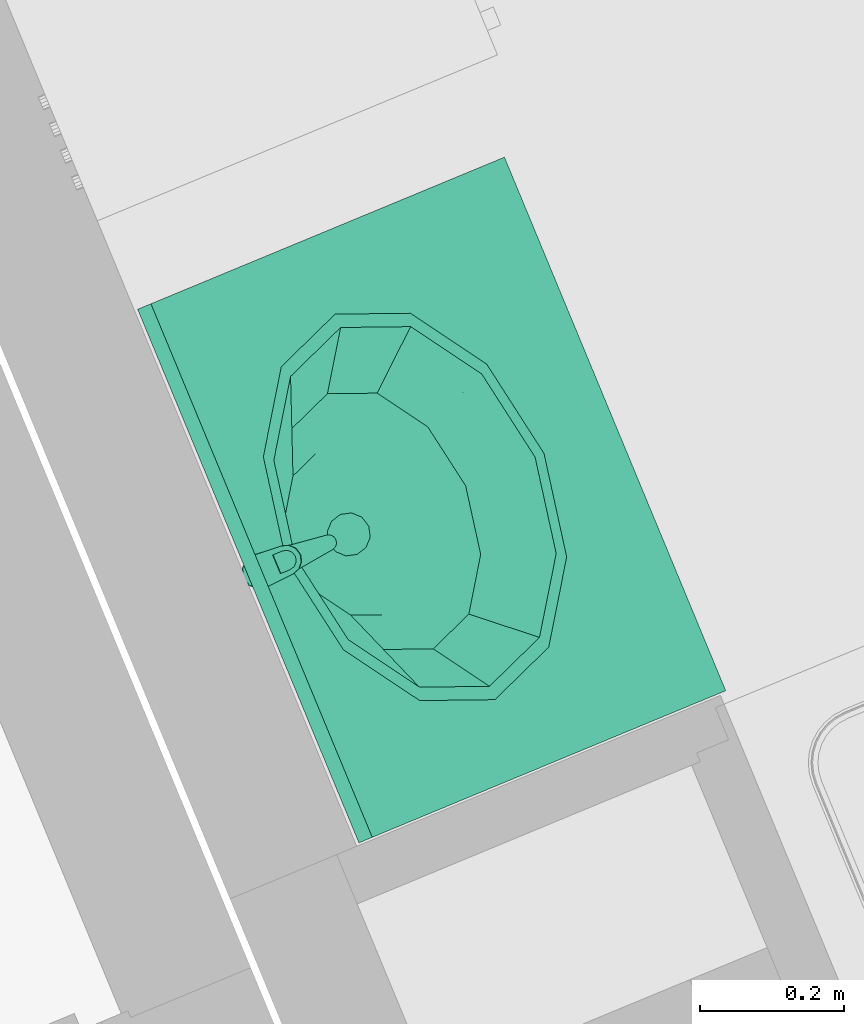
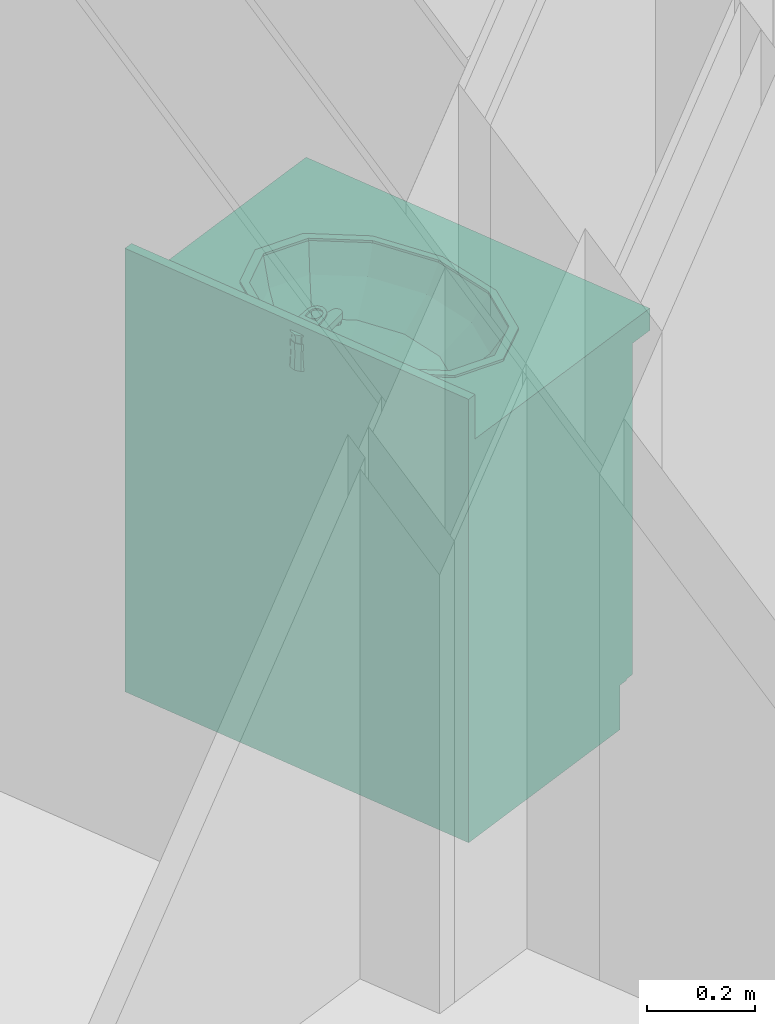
# One storey, part 71 of 90: 1 flow terminal.
"""IFC2X3 building model written with IfcOpenShell, lengths in metres."""

from ifc_helpers import new_model, entity, si_unit, converted_unit, derived_unit, money_unit, direction, frame, origin_with_axes, place, context, subcontext, project, spatial, open_shell, faceted_brep, surface_model, source, transform, mapped, type_object, element, save


model = new_model("IFC2X3")

# Units and contexts
model_context = context("Model", 3, precision=1e-05, world=origin_with_axes(), true_north=direction((0.0, 1.0)))
body_context = subcontext(model_context, "Body", "Model", "MODEL_VIEW")
ifc_project = project(units=[si_unit("LENGTHUNIT", "METRE"), si_unit("AREAUNIT", "SQUARE_METRE"), si_unit("VOLUMEUNIT", "CUBIC_METRE"), converted_unit("PLANEANGLEUNIT", "DEGREE", entity("IfcPlaneAngleMeasure", 0.0174532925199), si_unit("PLANEANGLEUNIT", "RADIAN"), dimensions=[0, 0, 0, 0, 0, 0, 0]), si_unit("SOLIDANGLEUNIT", "STERADIAN"), money_unit("EUR"), converted_unit("TIMEUNIT", "Year", entity("IfcTimeMeasure", 31556926.0), si_unit("TIMEUNIT", "SECOND"), dimensions=[0, 0, 1, 0, 0, 0, 0]), si_unit("MASSUNIT", "GRAM", prefix="KILO"), si_unit("THERMODYNAMICTEMPERATUREUNIT", "DEGREE_CELSIUS"), si_unit("LUMINOUSINTENSITYUNIT", "LUMEN"), si_unit("ENERGYUNIT", "JOULE", prefix="MEGA"), derived_unit("THERMALCONDUCTANCEUNIT", [(si_unit("POWERUNIT", "WATT"), 1), (si_unit("LENGTHUNIT", "METRE"), -1), (si_unit("THERMODYNAMICTEMPERATUREUNIT", "KELVIN"), -1)]), derived_unit("SPECIFICHEATCAPACITYUNIT", [(si_unit("ENERGYUNIT", "JOULE"), 1), (si_unit("MASSUNIT", "GRAM", prefix="KILO"), -1), (si_unit("THERMODYNAMICTEMPERATUREUNIT", "KELVIN"), -1)]), derived_unit("MASSDENSITYUNIT", [(si_unit("MASSUNIT", "GRAM", prefix="KILO"), 1), (si_unit("VOLUMEUNIT", "CUBIC_METRE"), -1)])], contexts=[model_context])

# Site, building, storey
site_placement = place(None, origin_with_axes())
site = spatial("IfcSite", under=ifc_project, at=site_placement, Name="Site", CompositionType="ELEMENT")
building_placement = place(site_placement, origin_with_axes())
building = spatial("IfcBuilding", under=site, at=building_placement, Name="Bâtiment", CompositionType="ELEMENT")
storey_placement = place(building_placement, frame((0.0, 0.0, 2.72), z_axis=(0.0, 0.0, 1.0), x_axis=(1.0, 0.0, 0.0)))
storey = spatial("IfcBuildingStorey", under=building, at=storey_placement, Name="R+1", CompositionType="ELEMENT", Elevation=2.72)

# Flow terminal
sanitary_terminal_type = type_object("IfcSanitaryTerminalType", Name="Lavabo sur meuble 23", PredefinedType="NOTDEFINED")
shared_shape = source(origin_with_axes(), body_context, "Body", "SurfaceModel", [
    faceted_brep([(0.0, 0.09, 0.0), (0.8, 0.09, 0.0), (0.8, 0.09, 0.1), (0.0, 0.09, 0.1), (0.0, 0.55, 0.0), (0.8, 0.55, 0.0), (0.8, 0.55, 0.1), (0.0, 0.55, 0.1)], [[[0, 1, 2, 3]], [[0, 4, 5, 1]], [[1, 5, 6, 2]], [[3, 2, 6, 7]], [[4, 0, 3, 7]], [[5, 4, 7, 6]]]),
    faceted_brep([(0.0, 0.07, 0.1), (0.02, 0.07, 0.1), (0.02, 0.07, 0.12), (0.0, 0.07, 0.12), (0.0, 0.55, 0.1), (0.02, 0.55, 0.1), (0.78, 0.55, 0.1), (0.8, 0.55, 0.1), (0.8, 0.07, 0.1), (0.78, 0.07, 0.1), (0.78, 0.07, 0.12), (0.8, 0.07, 0.12), (0.8, 0.55, 0.12), (0.78, 0.55, 0.12), (0.02, 0.55, 0.12), (0.0, 0.55, 0.12)], [[[0, 1, 2, 3]], [[0, 4, 5, 6, 7, 8, 9, 1]], [[1, 9, 10, 2]], [[3, 2, 10, 11, 12, 13, 14, 15]], [[4, 0, 3, 15]], [[5, 4, 15, 14]], [[6, 5, 14, 13]], [[7, 6, 13, 12]], [[8, 7, 12, 11]], [[9, 8, 11, 10]]]),
    faceted_brep([(0.0, 0.07, 0.12), (0.02, 0.07, 0.12), (0.02, 0.07, 0.85), (0.0, 0.07, 0.85), (0.0, 0.55, 0.12), (0.8, 0.55, 0.12), (0.8, 0.07, 0.12), (0.78, 0.07, 0.12), (0.78, 0.53, 0.12), (0.02, 0.53, 0.12), (0.02, 0.53, 0.85), (0.78, 0.53, 0.85), (0.78, 0.07, 0.85), (0.8, 0.07, 0.85), (0.8, 0.55, 0.85), (0.0, 0.55, 0.85)], [[[0, 1, 2, 3]], [[0, 4, 5, 6, 7, 8, 9, 1]], [[1, 9, 10, 2]], [[3, 2, 10, 11, 12, 13, 14, 15]], [[4, 0, 3, 15]], [[5, 4, 15, 14]], [[6, 5, 14, 13]], [[7, 6, 13, 12]], [[8, 7, 12, 11]], [[9, 8, 11, 10]]]),
    faceted_brep([(0.78, 0.07, 0.323333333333), (0.78, 0.53, 0.323333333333), (0.78, 0.53, 0.343333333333), (0.78, 0.07, 0.343333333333), (0.02, 0.07, 0.323333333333), (0.02, 0.53, 0.323333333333), (0.02, 0.53, 0.343333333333), (0.02, 0.07, 0.343333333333)], [[[0, 1, 2, 3]], [[0, 4, 5, 1]], [[1, 5, 6, 2]], [[3, 2, 6, 7]], [[4, 0, 3, 7]], [[5, 4, 7, 6]]]),
    faceted_brep([(0.78, 0.07, 0.566666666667), (0.78, 0.53, 0.566666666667), (0.78, 0.53, 0.586666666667), (0.78, 0.07, 0.586666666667), (0.02, 0.07, 0.566666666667), (0.02, 0.53, 0.566666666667), (0.02, 0.53, 0.586666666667), (0.02, 0.07, 0.586666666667)], [[[0, 1, 2, 3]], [[0, 4, 5, 1]], [[1, 5, 6, 2]], [[3, 2, 6, 7]], [[4, 0, 3, 7]], [[5, 4, 7, 6]]]),
    faceted_brep([(0.0, 0.55, 0.85), (0.8, 0.55, 0.85), (0.8, 0.0, 0.85), (0.0, 0.0, 0.85), (0.535, 0.144115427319, 0.85), (0.633826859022, 0.21, 0.85), (0.67, 0.3, 0.85), (0.633826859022, 0.39, 0.85), (0.535, 0.455884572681, 0.85), (0.4, 0.48, 0.85), (0.265, 0.455884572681, 0.85), (0.166173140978, 0.39, 0.85), (0.13, 0.3, 0.85), (0.166173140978, 0.21, 0.85), (0.265, 0.144115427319, 0.85), (0.4, 0.12, 0.85), (0.0, 0.55, 0.9), (0.8, 0.55, 0.9), (0.8, 0.0, 0.9), (0.0, 0.0, 0.9), (0.535, 0.144115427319, 0.9), (0.633826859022, 0.21, 0.9), (0.67, 0.3, 0.9), (0.633826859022, 0.39, 0.9), (0.535, 0.455884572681, 0.9), (0.4, 0.48, 0.9), (0.265, 0.455884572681, 0.9), (0.166173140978, 0.39, 0.9), (0.13, 0.3, 0.9), (0.166173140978, 0.21, 0.9), (0.265, 0.144115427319, 0.9), (0.4, 0.12, 0.9)], [[[0, 1, 2, 3], [4, 5, 6, 7, 8, 9, 10, 11, 12, 13, 14, 15]], [[0, 16, 17, 1]], [[1, 17, 18, 2]], [[2, 18, 19, 3]], [[3, 19, 16, 0]], [[20, 21, 5, 4]], [[21, 22, 6, 5]], [[22, 23, 7, 6]], [[23, 24, 8, 7]], [[24, 25, 9, 8]], [[25, 26, 10, 9]], [[26, 27, 11, 10]], [[27, 28, 12, 11]], [[28, 29, 13, 12]], [[29, 30, 14, 13]], [[30, 31, 15, 14]], [[31, 20, 4, 15]], [[18, 17, 16, 19], [24, 23, 22, 21, 20, 31, 30, 29, 28, 27, 26, 25]]]),
    faceted_brep([(0.0, 0.53, 0.9), (0.8, 0.53, 0.9), (0.8, 0.53, 1.0), (0.0, 0.53, 1.0), (0.0, 0.55, 0.9), (0.8, 0.55, 0.9), (0.8, 0.55, 1.0), (0.0, 0.55, 1.0)], [[[0, 1, 2, 3]], [[0, 4, 5, 1]], [[1, 5, 6, 2]], [[3, 2, 6, 7]], [[4, 0, 3, 7]], [[5, 4, 7, 6]]]),
    faceted_brep([(0.689, 0.3, 0.905), (0.689, 0.3, 0.9), (0.650281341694, 0.396691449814, 0.9), (0.650281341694, 0.396691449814, 0.905), (0.650281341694, 0.203308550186, 0.905), (0.650281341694, 0.203308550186, 0.9), (0.5445, 0.132525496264, 0.9), (0.4, 0.106617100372, 0.9), (0.2555, 0.132525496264, 0.9), (0.149718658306, 0.203308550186, 0.9), (0.111, 0.3, 0.9), (0.149718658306, 0.396691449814, 0.9), (0.2555, 0.467474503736, 0.9), (0.4, 0.493382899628, 0.9), (0.5445, 0.467474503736, 0.9), (0.669, 0.3, 0.9), (0.632960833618, 0.39, 0.9), (0.5345, 0.455884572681, 0.9), (0.4, 0.48, 0.9), (0.2655, 0.455884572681, 0.9), (0.167039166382, 0.39, 0.9), (0.131, 0.3, 0.9), (0.167039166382, 0.21, 0.9), (0.2655, 0.144115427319, 0.9), (0.4, 0.12, 0.9), (0.5345, 0.144115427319, 0.9), (0.632960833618, 0.21, 0.9), (0.5445, 0.467474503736, 0.905), (0.4, 0.493382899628, 0.905), (0.2555, 0.467474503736, 0.905), (0.149718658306, 0.396691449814, 0.905), (0.111, 0.3, 0.905), (0.149718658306, 0.203308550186, 0.905), (0.2555, 0.132525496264, 0.905), (0.4, 0.106617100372, 0.905), (0.5445, 0.132525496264, 0.905), (0.669, 0.3, 0.905), (0.632960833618, 0.21, 0.905), (0.5345, 0.144115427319, 0.905), (0.4, 0.12, 0.905), (0.2655, 0.144115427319, 0.905), (0.167039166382, 0.21, 0.905), (0.131, 0.3, 0.905), (0.167039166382, 0.39, 0.905), (0.2655, 0.455884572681, 0.905), (0.4, 0.48, 0.905), (0.5345, 0.455884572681, 0.905), (0.632960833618, 0.39, 0.905)], [[[0, 1, 2, 3]], [[4, 5, 1, 0]], [[1, 5, 6, 7, 8, 9, 10, 11, 12, 13, 14, 2], [15, 16, 17, 18, 19, 20, 21, 22, 23, 24, 25, 26]], [[3, 2, 14, 27]], [[0, 3, 27, 28, 29, 30, 31, 32, 33, 34, 35, 4], [36, 37, 38, 39, 40, 41, 42, 43, 44, 45, 46, 47]], [[35, 6, 5, 4]], [[34, 7, 6, 35]], [[33, 8, 7, 34]], [[32, 9, 8, 33]], [[31, 10, 9, 32]], [[30, 11, 10, 31]], [[29, 12, 11, 30]], [[28, 13, 12, 29]], [[27, 14, 13, 28]], [[47, 16, 15, 36]], [[46, 17, 16, 47]], [[45, 18, 17, 46]], [[44, 19, 18, 45]], [[43, 20, 19, 44]], [[42, 21, 20, 43]], [[41, 22, 21, 42]], [[40, 23, 22, 41]], [[39, 24, 23, 40]], [[38, 25, 24, 39]], [[37, 26, 25, 38]], [[36, 15, 26, 37]]]),
    surface_model("IfcShellBasedSurfaceModel", [(0.4, 0.48, 0.9), (0.4, 0.48, 0.848), (0.52105, 0.458296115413, 0.848), (0.5345, 0.455884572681, 0.9), (0.2655, 0.455884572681, 0.9), (0.27895, 0.458296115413, 0.848), (0.609664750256, 0.399, 0.848), (0.632960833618, 0.39, 0.9), (0.167039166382, 0.39, 0.9), (0.190335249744, 0.399, 0.848), (0.6421, 0.318, 0.848), (0.669, 0.3, 0.9), (0.131, 0.3, 0.9), (0.1579, 0.318, 0.848), (0.609664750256, 0.237, 0.848), (0.632960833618, 0.21, 0.9), (0.167039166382, 0.21, 0.9), (0.190335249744, 0.237, 0.848), (0.52105, 0.177703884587, 0.848), (0.5345, 0.144115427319, 0.9), (0.2655, 0.144115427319, 0.9), (0.27895, 0.177703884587, 0.848), (0.4, 0.156, 0.848), (0.4, 0.12, 0.9)], [open_shell([[[0, 1, 2, 3]], [[4, 5, 1, 0]], [[3, 2, 6, 7]], [[8, 9, 5, 4]], [[7, 6, 10, 11]], [[12, 13, 9, 8]], [[11, 10, 14, 15]], [[16, 17, 13, 12]], [[15, 14, 18, 19]], [[20, 21, 17, 16]], [[19, 18, 22, 23]], [[23, 22, 21, 20]]])]),
    surface_model("IfcShellBasedSurfaceModel", [(0.4, 0.48, 0.848), (0.4, 0.48, 0.796), (0.4956295, 0.462853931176, 0.796), (0.52105, 0.458296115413, 0.848), (0.27895, 0.458296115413, 0.848), (0.3043705, 0.462853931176, 0.796), (0.565635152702, 0.41601, 0.796), (0.609664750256, 0.399, 0.848), (0.190335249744, 0.399, 0.848), (0.234364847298, 0.41601, 0.796), (0.591259, 0.35202, 0.796), (0.6421, 0.318, 0.848), (0.1579, 0.318, 0.848), (0.208741, 0.35202, 0.796), (0.565635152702, 0.28803, 0.796), (0.609664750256, 0.237, 0.848), (0.190335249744, 0.237, 0.848), (0.234364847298, 0.28803, 0.796), (0.4956295, 0.241186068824, 0.796), (0.52105, 0.177703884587, 0.848), (0.27895, 0.177703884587, 0.848), (0.3043705, 0.241186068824, 0.796), (0.4, 0.22404, 0.796), (0.4, 0.156, 0.848)], [open_shell([[[0, 1, 2, 3]], [[4, 5, 1, 0]], [[3, 2, 6, 7]], [[8, 9, 5, 4]], [[7, 6, 10, 11]], [[12, 13, 9, 8]], [[11, 10, 14, 15]], [[16, 17, 13, 12]], [[15, 14, 18, 19]], [[20, 21, 17, 16]], [[19, 18, 22, 23]], [[23, 22, 21, 20]]])]),
    surface_model("IfcShellBasedSurfaceModel", [(0.4, 0.48, 0.796), (0.4, 0.48, 0.77), (0.460246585, 0.469197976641, 0.77), (0.4956295, 0.462853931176, 0.796), (0.3043705, 0.462853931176, 0.796), (0.339753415, 0.469197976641, 0.77), (0.504350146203, 0.4396863, 0.77), (0.565635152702, 0.41601, 0.796), (0.234364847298, 0.41601, 0.796), (0.295649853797, 0.4396863, 0.77), (0.52049317, 0.3993726, 0.77), (0.591259, 0.35202, 0.796), (0.208741, 0.35202, 0.796), (0.27950683, 0.3993726, 0.77), (0.504350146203, 0.3590589, 0.77), (0.565635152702, 0.28803, 0.796), (0.234364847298, 0.28803, 0.796), (0.295649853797, 0.3590589, 0.77), (0.460246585, 0.329547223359, 0.77), (0.4956295, 0.241186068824, 0.796), (0.3043705, 0.241186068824, 0.796), (0.339753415, 0.329547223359, 0.77), (0.4, 0.3187452, 0.77), (0.4, 0.22404, 0.796)], [open_shell([[[0, 1, 2, 3]], [[4, 5, 1, 0]], [[3, 2, 6, 7]], [[8, 9, 5, 4]], [[7, 6, 10, 11]], [[12, 13, 9, 8]], [[11, 10, 14, 15]], [[16, 17, 13, 12]], [[15, 14, 18, 19]], [[20, 21, 17, 16]], [[19, 18, 22, 23]], [[23, 22, 21, 20]]])]),
    surface_model("IfcShellBasedSurfaceModel", [(0.4, 0.48, 0.77), (0.415, 0.425353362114, 0.763), (0.460246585, 0.469197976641, 0.77), (0.4, 0.4293726, 0.763), (0.425980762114, 0.4143726, 0.763), (0.339753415, 0.469197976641, 0.77), (0.504350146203, 0.4396863, 0.77), (0.385, 0.425353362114, 0.763), (0.43, 0.3993726, 0.763), (0.295649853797, 0.4396863, 0.77), (0.52049317, 0.3993726, 0.77), (0.374019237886, 0.4143726, 0.763), (0.425980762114, 0.3843726, 0.763), (0.27950683, 0.3993726, 0.77), (0.504350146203, 0.3590589, 0.77), (0.37, 0.3993726, 0.763), (0.415, 0.373391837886, 0.763), (0.295649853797, 0.3590589, 0.77), (0.460246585, 0.329547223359, 0.77), (0.374019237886, 0.3843726, 0.763), (0.4, 0.3693726, 0.763), (0.339753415, 0.329547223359, 0.77), (0.4, 0.3187452, 0.77), (0.385, 0.373391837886, 0.763)], [open_shell([[[0, 1, 2]], [[0, 3, 1]], [[2, 1, 4]], [[5, 3, 0]], [[2, 4, 6]], [[5, 7, 3]], [[6, 4, 8]], [[9, 7, 5]], [[6, 8, 10]], [[9, 11, 7]], [[10, 8, 12]], [[13, 11, 9]], [[10, 12, 14]], [[13, 15, 11]], [[14, 12, 16]], [[17, 15, 13]], [[14, 16, 18]], [[17, 19, 15]], [[18, 16, 20]], [[21, 19, 17]], [[18, 20, 22]], [[21, 23, 19]], [[22, 20, 23]], [[22, 23, 21]]])]),
    surface_model("IfcShellBasedSurfaceModel", [(0.43, 0.3993726, 0.763), (0.43, 0.3993726, 0.758), (0.425980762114, 0.4143726, 0.758), (0.425980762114, 0.4143726, 0.763), (0.425980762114, 0.3843726, 0.763), (0.425980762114, 0.3843726, 0.758), (0.415, 0.373391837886, 0.758), (0.4, 0.3693726, 0.758), (0.385, 0.373391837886, 0.758), (0.374019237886, 0.3843726, 0.758), (0.37, 0.3993726, 0.758), (0.374019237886, 0.4143726, 0.758), (0.385, 0.425353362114, 0.758), (0.4, 0.4293726, 0.758), (0.415, 0.425353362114, 0.758), (0.415, 0.425353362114, 0.763), (0.415, 0.373391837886, 0.763), (0.4, 0.3693726, 0.763), (0.385, 0.373391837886, 0.763), (0.374019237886, 0.3843726, 0.763), (0.37, 0.3993726, 0.763), (0.374019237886, 0.4143726, 0.763), (0.385, 0.425353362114, 0.763), (0.4, 0.4293726, 0.763)], [open_shell([[[0, 1, 2, 3]], [[4, 5, 1, 0]], [[1, 5, 6, 7, 8, 9, 10, 11, 12, 13, 14, 2]], [[3, 2, 14, 15]], [[16, 6, 5, 4]], [[17, 7, 6, 16]], [[18, 8, 7, 17]], [[19, 9, 8, 18]], [[20, 10, 9, 19]], [[21, 11, 10, 20]], [[22, 12, 11, 21]], [[23, 13, 12, 22]], [[15, 14, 13, 23]]])]),
    faceted_brep([(0.4125, 0.554150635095, 0.9), (0.4, 0.5575, 0.9), (0.4, 0.553701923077, 0.975961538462), (0.410587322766, 0.550837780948, 0.976507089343), (0.421650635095, 0.545, 0.9), (0.425, 0.5325, 0.9), (0.421650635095, 0.52, 0.9), (0.4125, 0.510849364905, 0.9), (0.4, 0.5075, 0.9), (0.3875, 0.510849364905, 0.9), (0.378349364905, 0.52, 0.9), (0.375, 0.5325, 0.9), (0.378349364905, 0.545, 0.9), (0.3875, 0.554150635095, 0.9), (0.389412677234, 0.550837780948, 0.976507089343), (0.381726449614, 0.543050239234, 0.977990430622), (0.379, 0.5325, 0.98), (0.381899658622, 0.522049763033, 0.981990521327), (0.389585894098, 0.514462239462, 0.983435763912), (0.4, 0.511698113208, 0.983962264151), (0.410414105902, 0.514462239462, 0.983435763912), (0.418100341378, 0.522049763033, 0.981990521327), (0.421, 0.5325, 0.98), (0.418273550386, 0.543050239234, 0.977990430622)], [[[0, 1, 2, 3]], [[0, 4, 5, 6, 7, 8, 9, 10, 11, 12, 13, 1]], [[1, 13, 14, 2]], [[3, 2, 14, 15, 16, 17, 18, 19, 20, 21, 22, 23]], [[4, 0, 3, 23]], [[5, 4, 23, 22]], [[6, 5, 22, 21]], [[7, 6, 21, 20]], [[8, 7, 20, 19]], [[9, 8, 19, 18]], [[10, 9, 18, 17]], [[11, 10, 17, 16]], [[12, 11, 16, 15]], [[13, 12, 15, 14]]]),
    faceted_brep([(0.409, 0.4295, 0.935), (0.407794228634, 0.434, 0.935), (0.407794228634, 0.434, 0.945), (0.409, 0.4295, 0.945), (0.407794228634, 0.425, 0.935), (0.4045, 0.421705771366, 0.935), (0.4, 0.4205, 0.935), (0.3955, 0.421705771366, 0.935), (0.392205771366, 0.425, 0.935), (0.391, 0.4295, 0.935), (0.392205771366, 0.434, 0.935), (0.3955, 0.437294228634, 0.935), (0.4, 0.4385, 0.935), (0.4045, 0.437294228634, 0.935), (0.4045, 0.437294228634, 0.945), (0.4, 0.4385, 0.945), (0.3955, 0.437294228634, 0.945), (0.392205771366, 0.434, 0.945), (0.391, 0.4295, 0.945), (0.392205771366, 0.425, 0.945), (0.3955, 0.421705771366, 0.945), (0.4, 0.4205, 0.945), (0.4045, 0.421705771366, 0.945), (0.407794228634, 0.425, 0.945)], [[[0, 1, 2, 3]], [[0, 4, 5, 6, 7, 8, 9, 10, 11, 12, 13, 1]], [[1, 13, 14, 2]], [[3, 2, 14, 15, 16, 17, 18, 19, 20, 21, 22, 23]], [[4, 0, 3, 23]], [[5, 4, 23, 22]], [[6, 5, 22, 21]], [[7, 6, 21, 20]], [[8, 7, 20, 19]], [[9, 8, 19, 18]], [[10, 9, 18, 17]], [[11, 10, 17, 16]], [[12, 11, 16, 15]], [[13, 12, 15, 14]]]),
    faceted_brep([(0.387128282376, 0.552756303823, 0.96), (0.378272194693, 0.54269320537, 0.96), (0.3761946, 0.5294501, 0.96), (0.389088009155, 0.428111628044, 0.96), (0.390971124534, 0.423216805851, 0.96), (0.394906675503, 0.419750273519, 0.96), (0.400000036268, 0.41850003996, 0.96), (0.405093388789, 0.419750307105, 0.96), (0.409028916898, 0.423216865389, 0.96), (0.410912, 0.4281117, 0.96), (0.423805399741, 0.529450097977, 0.96), (0.421727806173, 0.542693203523, 0.96), (0.412871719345, 0.552756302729, 0.96), (0.40000000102, 0.556499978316, 0.96), (0.411, 0.551552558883, 0.96), (0.419052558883, 0.5435, 0.96), (0.422, 0.5325, 0.96), (0.419052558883, 0.5215, 0.96), (0.411, 0.513447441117, 0.96), (0.4, 0.5105, 0.96), (0.389, 0.513447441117, 0.96), (0.380947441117, 0.5215, 0.96), (0.378, 0.5325, 0.96), (0.380947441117, 0.5435, 0.96), (0.389, 0.551552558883, 0.96), (0.4, 0.5545, 0.96), (0.378272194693, 0.54269320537, 0.945), (0.387128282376, 0.552756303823, 0.945), (0.3761946, 0.5294501, 0.945), (0.389088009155, 0.428111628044, 0.945), (0.390971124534, 0.423216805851, 0.945), (0.394906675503, 0.419750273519, 0.945), (0.400000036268, 0.41850003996, 0.945), (0.405093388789, 0.419750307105, 0.945), (0.409028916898, 0.423216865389, 0.945), (0.410912, 0.4281117, 0.945), (0.423805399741, 0.529450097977, 0.945), (0.421727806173, 0.542693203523, 0.945), (0.412871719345, 0.552756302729, 0.945), (0.40000000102, 0.556499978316, 0.945), (0.411375, 0.552202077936, 0.945), (0.419702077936, 0.543875, 0.945), (0.42275, 0.5325, 0.945), (0.419702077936, 0.521125, 0.945), (0.411375, 0.512797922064, 0.945), (0.4, 0.50975, 0.945), (0.388625, 0.512797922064, 0.945), (0.380297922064, 0.521125, 0.945), (0.37725, 0.5325, 0.945), (0.380297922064, 0.543875, 0.945), (0.388625, 0.552202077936, 0.945), (0.4, 0.55525, 0.945)], [[[0, 1, 2, 3, 4, 5, 6, 7, 8, 9, 10, 11, 12, 13], [14, 15, 16, 17, 18, 19, 20, 21, 22, 23, 24, 25]], [[26, 1, 0, 27]], [[28, 2, 1, 26]], [[29, 3, 2, 28]], [[30, 4, 3, 29]], [[31, 5, 4, 30]], [[32, 6, 5, 31]], [[33, 7, 6, 32]], [[34, 8, 7, 33]], [[35, 9, 8, 34]], [[36, 10, 9, 35]], [[37, 11, 10, 36]], [[38, 12, 11, 37]], [[39, 13, 12, 38]], [[27, 0, 13, 39]], [[40, 41, 15, 14]], [[41, 42, 16, 15]], [[42, 43, 17, 16]], [[43, 44, 18, 17]], [[44, 45, 19, 18]], [[20, 19, 45, 46]], [[21, 20, 46, 47]], [[22, 21, 47, 48]], [[23, 22, 48, 49]], [[24, 23, 49, 50]], [[50, 51, 25, 24]], [[51, 40, 14, 25]], [[32, 31, 30, 29, 28, 26, 27, 39, 38, 37, 36, 35, 34, 33], [44, 43, 42, 41, 40, 51, 50, 49, 48, 47, 46, 45]]]),
    faceted_brep([(0.423893, 0.53080743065, 0.980322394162), (0.421296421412, 0.543274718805, 0.977947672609), (0.421296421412, 0.544023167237, 0.981877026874), (0.423893, 0.531555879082, 0.984251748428), (0.420945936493, 0.490663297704, 0.987968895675), (0.417663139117, 0.480985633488, 0.989812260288), (0.410061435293, 0.474036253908, 0.991135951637), (0.399999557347, 0.47151438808, 0.991616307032), (0.389937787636, 0.474036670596, 0.991135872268), (0.382336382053, 0.480986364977, 0.989812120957), (0.379054, 0.490664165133, 0.987968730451), (0.376106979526, 0.530807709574, 0.980322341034), (0.378703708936, 0.543274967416, 0.977947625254), (0.38752831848, 0.552591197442, 0.976173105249), (0.400000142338, 0.556031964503, 0.975517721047), (0.41247192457, 0.552591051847, 0.976173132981), (0.414, 0.506959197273, 0.984864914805), (0.386, 0.506959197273, 0.984864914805), (0.386, 0.492143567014, 0.987686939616), (0.387875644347, 0.485267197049, 0.988996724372), (0.393, 0.480233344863, 0.989955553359), (0.4, 0.478390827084, 0.990306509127), (0.407, 0.480233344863, 0.989955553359), (0.412124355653, 0.485267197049, 0.988996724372), (0.414, 0.492143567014, 0.987686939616), (0.41247192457, 0.553339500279, 0.980102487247), (0.400000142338, 0.556780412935, 0.979447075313), (0.38752831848, 0.553339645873, 0.980102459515), (0.378703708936, 0.544023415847, 0.98187697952), (0.376106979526, 0.531556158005, 0.984251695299), (0.379054, 0.491412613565, 0.991898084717), (0.382336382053, 0.481734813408, 0.993741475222), (0.389937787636, 0.474785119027, 0.995065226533), (0.399999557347, 0.472262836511, 0.995545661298), (0.410061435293, 0.47478470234, 0.995065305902), (0.417663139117, 0.48173408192, 0.993741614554), (0.420945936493, 0.491411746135, 0.991898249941), (0.414, 0.507707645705, 0.988794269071), (0.414, 0.492892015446, 0.991616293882), (0.412124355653, 0.486015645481, 0.992926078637), (0.407, 0.480981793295, 0.993884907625), (0.4, 0.479139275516, 0.994235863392), (0.393, 0.480981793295, 0.993884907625), (0.387875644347, 0.486015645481, 0.992926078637), (0.386, 0.492892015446, 0.991616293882), (0.386, 0.507707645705, 0.988794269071)], [[[0, 1, 2, 3]], [[0, 4, 5, 6, 7, 8, 9, 10, 11, 12, 13, 14, 15, 1], [16, 17, 18, 19, 20, 21, 22, 23, 24]], [[1, 15, 25, 2]], [[3, 2, 25, 26, 27, 28, 29, 30, 31, 32, 33, 34, 35, 36], [37, 38, 39, 40, 41, 42, 43, 44, 45]], [[4, 0, 3, 36]], [[5, 4, 36, 35]], [[6, 5, 35, 34]], [[7, 6, 34, 33]], [[8, 7, 33, 32]], [[9, 8, 32, 31]], [[10, 9, 31, 30]], [[11, 10, 30, 29]], [[12, 11, 29, 28]], [[13, 12, 28, 27]], [[14, 13, 27, 26]], [[15, 14, 26, 25]], [[17, 16, 37, 45]], [[18, 17, 45, 44]], [[19, 18, 44, 43]], [[20, 19, 43, 42]], [[21, 20, 42, 41]], [[22, 21, 41, 40]], [[23, 22, 40, 39]], [[24, 23, 39, 38]], [[16, 24, 38, 37]]]),
    faceted_brep([(0.0015, 0.07, 0.1015), (0.3985, 0.07, 0.1015), (0.3985, 0.05, 0.1015), (0.0015, 0.05, 0.1015), (0.0015, 0.07, 0.8485), (0.3985, 0.07, 0.8485), (0.3985, 0.05, 0.8485), (0.0015, 0.05, 0.8485)], [[[0, 1, 2, 3]], [[0, 4, 5, 1]], [[1, 5, 6, 2]], [[3, 2, 6, 7]], [[4, 0, 3, 7]], [[5, 4, 7, 6]]]),
    faceted_brep([(0.358892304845, 0.05, 0.7855), (0.3545, 0.05, 0.781107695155), (0.3485, 0.05, 0.7795), (0.3425, 0.05, 0.781107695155), (0.338107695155, 0.05, 0.7855), (0.3365, 0.05, 0.7915), (0.338107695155, 0.05, 0.7975), (0.3425, 0.05, 0.801892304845), (0.3485, 0.05, 0.8035), (0.3545, 0.05, 0.801892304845), (0.358892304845, 0.05, 0.7975), (0.3605, 0.05, 0.7915), (0.358892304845, 0.025, 0.7855), (0.3545, 0.025, 0.781107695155), (0.3485, 0.025, 0.7795), (0.3425, 0.025, 0.781107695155), (0.338107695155, 0.025, 0.7855), (0.3365, 0.025, 0.7915), (0.338107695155, 0.025, 0.7975), (0.3425, 0.025, 0.801892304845), (0.3485, 0.025, 0.8035), (0.3545, 0.025, 0.801892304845), (0.358892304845, 0.025, 0.7975), (0.3605, 0.025, 0.7915)], [[[0, 1, 2, 3, 4, 5, 6, 7, 8, 9, 10, 11]], [[1, 0, 12, 13]], [[2, 1, 13, 14]], [[3, 2, 14, 15]], [[4, 3, 15, 16]], [[5, 4, 16, 17]], [[6, 5, 17, 18]], [[7, 6, 18, 19]], [[8, 7, 19, 20]], [[9, 8, 20, 21]], [[10, 9, 21, 22]], [[11, 10, 22, 23]], [[0, 11, 23, 12]], [[12, 23, 22, 21, 20, 19, 18, 17, 16, 15, 14, 13]]]),
    faceted_brep([(0.7985, 0.07, 0.1015), (0.7985, 0.05, 0.1015), (0.4015, 0.05, 0.1015), (0.4015, 0.07, 0.1015), (0.7985, 0.07, 0.8485), (0.7985, 0.05, 0.8485), (0.4015, 0.05, 0.8485), (0.4015, 0.07, 0.8485)], [[[0, 1, 2, 3]], [[4, 5, 1, 0]], [[1, 5, 6, 2]], [[3, 2, 6, 7]], [[0, 3, 7, 4]], [[7, 6, 5, 4]]]),
    faceted_brep([(0.441107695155, 0.05, 0.7855), (0.4395, 0.05, 0.7915), (0.441107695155, 0.05, 0.7975), (0.4455, 0.05, 0.801892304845), (0.4515, 0.05, 0.8035), (0.4575, 0.05, 0.801892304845), (0.461892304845, 0.05, 0.7975), (0.4635, 0.05, 0.7915), (0.461892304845, 0.05, 0.7855), (0.4575, 0.05, 0.781107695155), (0.4515, 0.05, 0.7795), (0.4455, 0.05, 0.781107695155), (0.441107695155, 0.025, 0.7855), (0.4395, 0.025, 0.7915), (0.441107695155, 0.025, 0.7975), (0.4455, 0.025, 0.801892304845), (0.4515, 0.025, 0.8035), (0.4575, 0.025, 0.801892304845), (0.461892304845, 0.025, 0.7975), (0.4635, 0.025, 0.7915), (0.461892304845, 0.025, 0.7855), (0.4575, 0.025, 0.781107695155), (0.4515, 0.025, 0.7795), (0.4455, 0.025, 0.781107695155)], [[[0, 1, 2, 3, 4, 5, 6, 7, 8, 9, 10, 11]], [[0, 12, 13, 1]], [[1, 13, 14, 2]], [[2, 14, 15, 3]], [[3, 15, 16, 4]], [[4, 16, 17, 5]], [[5, 17, 18, 6]], [[6, 18, 19, 7]], [[7, 19, 20, 8]], [[8, 20, 21, 9]], [[9, 21, 22, 10]], [[10, 22, 23, 11]], [[11, 23, 12, 0]], [[12, 23, 22, 21, 20, 19, 18, 17, 16, 15, 14, 13]]]),
])
flow_terminal_placement = place(storey_placement, frame((-22.9003043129, -19.6323297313, 0.0), z_axis=(0.0, 0.0, 1.0), x_axis=(-0.383112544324, 0.923701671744, 0.0)))
element("IfcFlowTerminal", 1, at=flow_terminal_placement, inside=storey, type_object=sanitary_terminal_type, Name="MOB-002", ObjectType="SANITARY_TERMINAL", context=body_context, shape_type="MappedRepresentation", body=[
    mapped(shared_shape, transform((0.0, 0.0, 0.0))),
])

save(model, "model.ifc")
